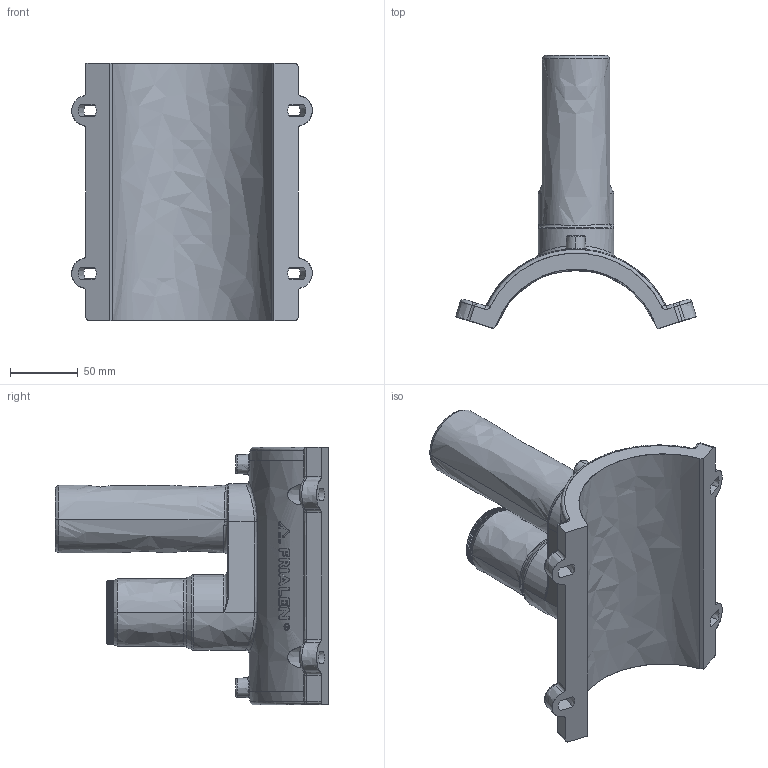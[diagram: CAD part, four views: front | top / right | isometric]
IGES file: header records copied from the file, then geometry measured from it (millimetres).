
Start section:  PTC IGES file: dap_d125_50_01.igs
Global section: file name: dap_d125_50_01.igs; native system: Pro/ENGINEER by Parametric Technology Corporation; preprocessor: 2011490; author: mtunjic; organization: Unknown; date: 20130909.082806; units: millimetre
Bounding box: 177.66 x 201.75 x 190 mm (x, y, z)
Surface area: 141077 mm2 (no closed solid volume)
Topology: 0 solids, 0 shells, 806 faces, 4550 edges, 4550 vertices
Faces by surface type: bspline 806
